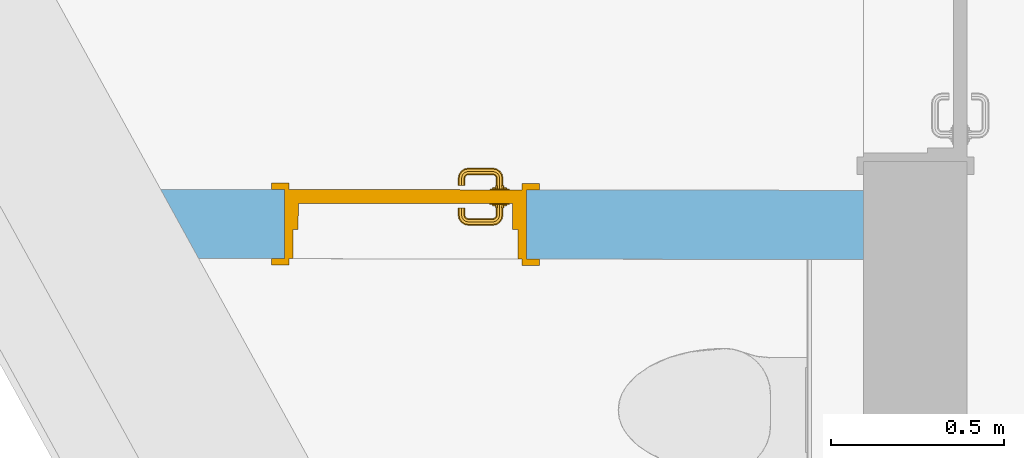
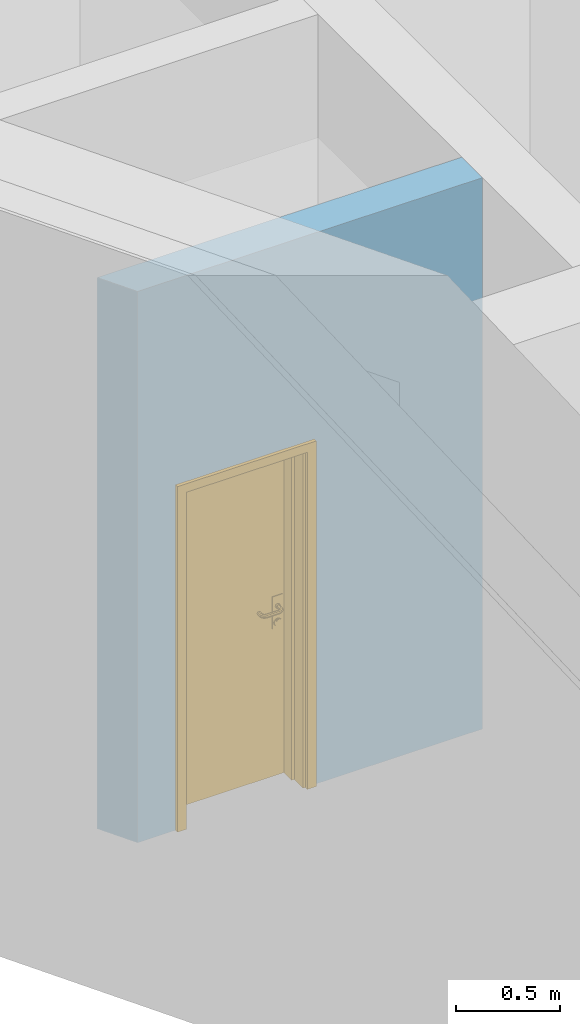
# One storey, part 46 of 194: 1 door, 1 opening, plus 1 element that does not belong to this part.
"""IFC2X3 building model written with IfcOpenShell, lengths in millimetres."""

from ifc_helpers import new_model, entity, si_unit, converted_unit, derived_unit, money_unit, direction, frame, origin_with_axes, origin_2d_with_axis, place, context, subcontext, project, spatial, polyline, rectangle, outline, extrude, open_shell, faceted_brep, surface_model, material, layer, layer_set, layer_usage, type_object, element, fill, save


model = new_model("IFC2X3")

# Units and contexts
model_context = context("Model", 3, precision=1e-05, world=origin_with_axes(), true_north=direction((0.0, 1.0)))
body_context = subcontext(model_context, "Body", "Model", "MODEL_VIEW")
ifc_project = project(units=[si_unit("LENGTHUNIT", "METRE", prefix="MILLI"), si_unit("AREAUNIT", "SQUARE_METRE"), si_unit("VOLUMEUNIT", "CUBIC_METRE"), converted_unit("PLANEANGLEUNIT", "DEGREE", entity("IfcPlaneAngleMeasure", 0.0174532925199), si_unit("PLANEANGLEUNIT", "RADIAN"), dimensions=[0, 0, 0, 0, 0, 0, 0]), si_unit("SOLIDANGLEUNIT", "STERADIAN"), money_unit("EUR"), converted_unit("TIMEUNIT", "Year", entity("IfcTimeMeasure", 31556926.0), si_unit("TIMEUNIT", "SECOND"), dimensions=[0, 0, 1, 0, 0, 0, 0]), si_unit("MASSUNIT", "GRAM", prefix="KILO"), si_unit("THERMODYNAMICTEMPERATUREUNIT", "DEGREE_CELSIUS"), si_unit("LUMINOUSINTENSITYUNIT", "LUMEN"), si_unit("ENERGYUNIT", "JOULE", prefix="MEGA"), derived_unit("THERMALCONDUCTANCEUNIT", [(si_unit("POWERUNIT", "WATT"), 1), (si_unit("LENGTHUNIT", "METRE"), -1), (si_unit("THERMODYNAMICTEMPERATUREUNIT", "KELVIN"), -1)]), derived_unit("SPECIFICHEATCAPACITYUNIT", [(si_unit("ENERGYUNIT", "JOULE"), 1), (si_unit("MASSUNIT", "GRAM", prefix="KILO"), -1), (si_unit("THERMODYNAMICTEMPERATUREUNIT", "KELVIN"), -1)]), derived_unit("MASSDENSITYUNIT", [(si_unit("MASSUNIT", "GRAM", prefix="KILO"), 1), (si_unit("VOLUMEUNIT", "CUBIC_METRE"), -1)])], contexts=[model_context])

# Site, building, storey
site_placement = place(None, origin_with_axes())
site = spatial("IfcSite", under=ifc_project, at=site_placement, Name="Site", CompositionType="ELEMENT")
building_placement = place(site_placement, origin_with_axes())
building = spatial("IfcBuilding", under=site, at=building_placement, Name="Building", CompositionType="ELEMENT")
storey_placement = place(building_placement, frame((0.0, 0.0, 3000.0), z_axis=(0.0, 0.0, 1.0), x_axis=(1.0, 0.0, 0.0)))
storey = spatial("IfcBuildingStorey", under=building, at=storey_placement, Name="2 KORRUS", CompositionType="ELEMENT", Elevation=3000.0)

# Wall, opening, door
ifc_material = material(Name="Kivi -Ol.Olev Konstruktsioon")
ifc_layer = layer(ifc_material, 200.0, ventilated="UNKNOWN")
ifc_layer_set = layer_set([ifc_layer], Name="ol.olev ss 200")
ifc_layer_usage = layer_usage(ifc_layer_set, "AXIS2", "POSITIVE", -200.0)
wall_type = type_object("IfcWallType", Name="SW - 022", PredefinedType="NOTDEFINED")
wall_placement = place(storey_placement, frame((33717.5084509, 9596.11004408, 0.0), z_axis=(0.0, 0.0, 1.0), x_axis=(-0.999998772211, 0.00156702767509, 0.0)))
wall = element("IfcWallStandardCase", 1, at=wall_placement, inside=storey, type_object=wall_type, material=ifc_layer_usage, Name="ol.olev ss 200", context=body_context, shape_type="SweptSolid", body=[
    extrude(outline(polyline([(0.313405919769, -200.0), (2032.19972244, -199.999999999), (1921.79065681, 9.09494701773e-10), (0.0, 0.0), (0.313405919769, -200.0)])), origin_with_axes(), (0.0, 0.0, 1.0), 3250.0),
])
opening_placement = place(wall_placement, frame((1324.06475725, 0.0, 0.0), z_axis=(0.0, 0.0, 1.0), x_axis=(1.0, 0.0, 0.0)))
opening = element("IfcOpeningElement", 2, at=opening_placement, cuts=wall, Name="Siseuks * Door 22", context=body_context, shape_type="SweptSolid", body=[
    extrude(rectangle(XDim=700.0, YDim=2000.0, at=origin_2d_with_axis()), frame((-1.13686837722e-10, 200.000000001, 1000.0), z_axis=(0.0, 1.0, 0.0), x_axis=(1.0, 0.0, 0.0)), (0.0, 0.0, -1.0), 600.000000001),
    extrude(rectangle(XDim=774.0, YDim=2037.0, at=origin_2d_with_axis()), frame((0.0, 0.0, 1018.5), z_axis=(0.0, 1.0, 0.0), x_axis=(1.0, 0.0, 0.0)), (0.0, 0.0, 1.0), 200.000000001),
    extrude(rectangle(XDim=774.0, YDim=2037.0, at=origin_2d_with_axis()), frame((-1.13686837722e-10, -200.000000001, 1018.5), z_axis=(0.0, -1.0, 0.0), x_axis=(1.0, 0.0, 0.0)), (0.0, 0.0, 1.0), 200.000000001),
])
door_style = type_object("IfcDoorStyle", Name="SU-C209A   700×2\xa0000", ConstructionType="NOTDEFINED", OperationType="SINGLE_SWING_LEFT", ParameterTakesPrecedence=False, Sizeable=False)
door_placement = place(opening_placement, frame((350.0, 9.09494701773e-10, 0.0), z_axis=(0.0, 0.0, 1.0), x_axis=(-1.0, 0.0, 0.0)))
door = element("IfcDoor", 3, at=door_placement, inside=storey, type_object=door_style, Name="Siseuks * Door 22", OverallHeight=2000.0, OverallWidth=700.0, context=body_context, shape_type="SurfaceModel", body=[
    faceted_brep([(700.0, 85.0000000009, 0.0), (700.0, 9.09494701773e-10, 0.0), (675.0, 9.09494701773e-10, 0.0), (675.0, 85.0, 0.0), (700.0, 85.0000000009, 2000.0), (700.0, 9.09494701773e-10, 2000.0), (675.0, 9.09494701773e-10, 1975.0), (675.0, 85.0, 1975.0)], [[[0, 1, 2, 3]], [[4, 5, 1, 0]], [[1, 5, 6, 2]], [[3, 2, 6, 7]], [[0, 3, 7, 4]], [[7, 6, 5, 4]]]),
    faceted_brep([(0.0, 85.0, 2000.0), (1.13686837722e-10, 9.09494701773e-10, 2000.0), (25.0000000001, 9.09494701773e-10, 1975.0), (25.0000000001, 85.0000000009, 1975.0), (0.0, 85.0, 0.0), (1.13686837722e-10, 9.09494701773e-10, 0.0), (25.0000000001, 9.09494701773e-10, 0.0), (25.0000000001, 85.0000000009, 0.0)], [[[0, 1, 2, 3]], [[4, 5, 1, 0]], [[1, 5, 6, 2]], [[3, 2, 6, 7]], [[0, 3, 7, 4]], [[7, 6, 5, 4]]]),
    faceted_brep([(675.0, 85.0, 1975.0), (675.0, 9.09494701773e-10, 1975.0), (25.0000000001, 9.09494701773e-10, 1975.0), (25.0000000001, 85.0000000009, 1975.0), (700.0, 85.0000000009, 2000.0), (700.0, 9.09494701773e-10, 2000.0), (1.13686837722e-10, 9.09494701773e-10, 2000.0), (0.0, 85.0, 2000.0)], [[[0, 1, 2, 3]], [[4, 5, 1, 0]], [[1, 5, 6, 2]], [[3, 2, 6, 7]], [[0, 3, 7, 4]], [[7, 6, 5, 4]]]),
    faceted_brep([(737.0, -18.9999999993, 0.0), (687.0, -18.9999999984, 0.0), (687.0, 9.09494701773e-10, 0.0), (737.0, 0.0, 0.0), (737.0, -18.9999999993, 2037.0), (687.0, -18.9999999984, 1987.0), (687.0, 9.09494701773e-10, 1987.0), (737.0, 0.0, 2037.0)], [[[0, 1, 2, 3]], [[0, 4, 5, 1]], [[1, 5, 6, 2]], [[3, 2, 6, 7]], [[4, 0, 3, 7]], [[5, 4, 7, 6]]]),
    faceted_brep([(-36.9999999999, -18.9999999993, 2037.0), (13.0000000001, -18.9999999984, 1987.0), (13.0000000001, 9.09494701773e-10, 1987.0), (-36.9999999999, 9.09494701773e-10, 2037.0), (-36.9999999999, -18.9999999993, 0.0), (13.0000000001, -18.9999999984, 0.0), (13.0000000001, 9.09494701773e-10, 0.0), (-36.9999999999, 9.09494701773e-10, 0.0)], [[[0, 1, 2, 3]], [[0, 4, 5, 1]], [[1, 5, 6, 2]], [[3, 2, 6, 7]], [[4, 0, 3, 7]], [[5, 4, 7, 6]]]),
    faceted_brep([(737.0, -18.9999999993, 2037.0), (687.0, -18.9999999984, 1987.0), (687.0, 9.09494701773e-10, 1987.0), (737.0, 0.0, 2037.0), (-36.9999999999, -18.9999999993, 2037.0), (13.0000000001, -18.9999999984, 1987.0), (13.0000000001, 9.09494701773e-10, 1987.0), (-36.9999999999, 9.09494701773e-10, 2037.0)], [[[0, 1, 2, 3]], [[0, 4, 5, 1]], [[1, 5, 6, 2]], [[3, 2, 6, 7]], [[4, 0, 3, 7]], [[5, 4, 7, 6]]]),
    faceted_brep([(737.0, 219.000000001, 0.0), (737.0, 200.000000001, 0.0), (687.0, 200.000000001, 0.0), (687.0, 219.000000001, 0.0), (737.0, 219.000000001, 2037.0), (737.0, 200.000000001, 2037.0), (687.0, 200.000000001, 1987.0), (687.0, 219.000000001, 1987.0)], [[[0, 1, 2, 3]], [[4, 5, 1, 0]], [[1, 5, 6, 2]], [[3, 2, 6, 7]], [[0, 3, 7, 4]], [[7, 6, 5, 4]]]),
    faceted_brep([(-36.9999999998, 219.0, 2037.0), (-36.9999999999, 200.000000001, 2037.0), (13.0000000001, 200.000000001, 1987.0), (13.0, 219.000000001, 1987.0), (-36.9999999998, 219.0, 0.0), (-36.9999999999, 200.000000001, 0.0), (13.0000000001, 200.000000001, 0.0), (13.0, 219.000000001, 0.0)], [[[0, 1, 2, 3]], [[4, 5, 1, 0]], [[1, 5, 6, 2]], [[3, 2, 6, 7]], [[0, 3, 7, 4]], [[7, 6, 5, 4]]]),
    faceted_brep([(737.0, 219.000000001, 2037.0), (737.0, 200.000000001, 2037.0), (687.0, 200.000000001, 1987.0), (687.0, 219.000000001, 1987.0), (-36.9999999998, 219.0, 2037.0), (-36.9999999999, 200.000000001, 2037.0), (13.0000000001, 200.000000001, 1987.0), (13.0, 219.000000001, 1987.0)], [[[0, 1, 2, 3]], [[4, 5, 1, 0]], [[1, 5, 6, 2]], [[3, 2, 6, 7]], [[0, 3, 7, 4]], [[7, 6, 5, 4]]]),
    faceted_brep([(660.0, 160.000000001, 0.0), (660.0, 85.0000000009, 0.0), (660.0, 85.0000000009, 1960.0), (660.0, 160.000000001, 1960.0), (672.0, 160.0, 0.0), (672.0, 200.000000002, 0.0), (700.0, 200.000000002, 0.0), (700.0, 85.0000000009, 0.0), (700.0, 85.0000000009, 1960.0), (672.0, 160.0, 1960.0), (700.0, 200.000000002, 1960.0), (672.0, 200.000000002, 1960.0)], [[[0, 1, 2, 3]], [[4, 5, 6, 7, 1, 0]], [[1, 7, 8, 2]], [[9, 3, 2, 8, 10, 11]], [[9, 4, 0, 3]], [[11, 5, 4, 9]], [[11, 10, 6, 5]], [[6, 10, 8, 7]]]),
    faceted_brep([(28.0000000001, 160.000000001, 1960.0), (28.0000000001, 200.000000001, 1960.0), (0.0, 200.000000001, 1960.0), (0.0, 85.0, 1960.0), (40.0000000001, 85.0000000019, 1960.0), (40.0000000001, 160.000000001, 1960.0), (28.0000000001, 160.000000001, 0.0), (28.0000000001, 200.000000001, 0.0), (0.0, 200.000000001, 0.0), (0.0, 85.0, 0.0), (40.0000000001, 85.0000000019, 0.0), (40.0000000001, 160.000000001, 0.0)], [[[0, 1, 2, 3, 4, 5]], [[0, 6, 7, 1]], [[7, 8, 2, 1]], [[2, 8, 9, 3]], [[3, 9, 10, 4]], [[5, 4, 10, 11]], [[5, 11, 6, 0]], [[6, 11, 10, 9, 8, 7]]]),
    faceted_brep([(672.0, 200.000000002, 1972.0), (28.0000000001, 200.000000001, 1972.0), (28.0000000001, 200.000000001, 1960.0), (0.0, 200.000000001, 1960.0), (0.0, 200.000000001, 2000.0), (700.0, 200.000000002, 2000.0), (700.0, 200.000000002, 1960.0), (672.0, 200.000000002, 1960.0), (672.0, 160.0, 1972.0), (28.0000000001, 160.000000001, 1972.0), (28.0000000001, 160.000000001, 1960.0), (40.0000000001, 160.000000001, 1960.0), (40.0000000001, 85.0000000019, 1960.0), (0.0, 85.0, 1960.0), (0.0, 85.0, 2000.0), (700.0, 85.0000000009, 2000.0), (700.0, 85.0000000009, 1960.0), (672.0, 160.0, 1960.0), (660.0, 85.0000000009, 1960.0), (660.0, 160.000000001, 1960.0)], [[[0, 1, 2, 3, 4, 5, 6, 7]], [[0, 8, 9, 1]], [[1, 9, 10, 2]], [[10, 11, 12, 13, 3, 2]], [[4, 3, 13, 14]], [[5, 4, 14, 15]], [[6, 5, 15, 16]], [[17, 7, 6, 16, 18, 19]], [[7, 17, 8, 0]], [[10, 9, 8, 17, 19, 11]], [[19, 18, 12, 11]], [[12, 18, 16, 15, 14, 13]]]),
    faceted_brep([(650.5, 160.000000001, 1060.0), (593.5, 160.000000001, 1060.0), (593.5, 157.0, 1060.0), (650.5, 157.000000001, 1060.0), (650.5, 160.000000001, 870.0), (593.5, 160.000000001, 870.0), (593.5, 157.0, 870.0), (650.5, 157.000000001, 870.0)], [[[0, 1, 2, 3]], [[0, 4, 5, 1]], [[1, 5, 6, 2]], [[3, 2, 6, 7]], [[4, 0, 3, 7]], [[5, 4, 7, 6]]]),
    surface_model("IfcShellBasedSurfaceModel", [(612.0, 147.000000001, 1000.0), (614.928932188, 147.000000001, 992.928932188), (614.928932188, 127.696439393, 992.928932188), (612.0, 127.984914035, 1000.0), (622.0, 147.000000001, 990.0), (622.0, 127.0, 990.0), (613.816790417, 122.105325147, 992.928932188), (611.057796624, 123.248137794, 1000.0), (614.928932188, 147.000000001, 1007.07106781), (614.928932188, 127.696439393, 1007.07106781), (629.071067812, 147.000000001, 992.928932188), (629.071067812, 126.303560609, 992.928932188), (620.47759065, 119.346331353, 990.0), (611.044179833, 117.955820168, 992.928932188), (608.932537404, 120.067462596, 1000.0), (613.816790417, 122.105325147, 1007.07106781), (622.0, 147.000000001, 1010.0), (622.0, 127.0, 1010.0), (632.0, 147.000000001, 1000.0), (632.0, 126.015085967, 1000.0), (627.138390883, 116.587337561, 992.928932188), (616.142135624, 112.857864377, 990.0), (606.894674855, 115.183209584, 992.928932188), (605.751862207, 117.942203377, 1000.0), (611.044179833, 117.955820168, 1007.07106781), (620.47759065, 119.346331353, 1010.0), (629.071067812, 147.000000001, 1007.07106781), (629.071067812, 126.303560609, 1007.07106781), (629.897384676, 115.444524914, 1000.0), (621.240091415, 107.759908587, 992.928932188), (609.653668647, 108.52240935, 990.0), (601.303560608, 114.071067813, 992.928932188), (601.015085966, 117.000000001, 1000.0), (606.894674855, 115.183209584, 1007.07106781), (616.142135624, 112.857864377, 1010.0), (627.138390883, 116.587337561, 1007.07106781), (623.351733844, 105.648266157, 1000.0), (612.41266244, 101.861609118, 992.928932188), (602.0, 107.000000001, 990.0), (532.696439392, 114.071067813, 992.928932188), (532.984914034, 117.000000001, 1000.0), (601.303560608, 114.071067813, 1007.07106781), (609.653668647, 108.52240935, 1010.0), (621.240091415, 107.759908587, 1007.07106781), (613.555475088, 99.1026153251, 1000.0), (602.696439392, 99.928932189, 992.928932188), (532.0, 107.000000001, 990.0), (527.105325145, 115.183209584, 992.928932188), (528.248137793, 117.942203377, 1000.0), (532.696439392, 114.071067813, 1007.07106781), (602.0, 107.000000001, 1010.0), (612.41266244, 101.861609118, 1007.07106781), (602.984914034, 97.0000000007, 1000.0), (531.303560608, 99.928932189, 992.928932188), (524.346331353, 108.52240935, 990.0), (522.955820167, 117.955820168, 992.928932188), (525.067462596, 120.067462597, 1000.0), (527.105325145, 115.183209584, 1007.07106781), (532.0, 107.000000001, 1010.0), (602.696439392, 99.928932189, 1007.07106781), (531.015085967, 97.0000000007, 1000.0), (521.58733756, 101.861609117, 992.928932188), (517.857864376, 112.857864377, 990.0), (520.183209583, 122.105325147, 992.928932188), (522.942203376, 123.248137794, 1000.0), (522.955820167, 117.955820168, 1007.07106781), (524.346331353, 108.52240935, 1010.0), (531.303560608, 99.928932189, 1007.07106781), (520.444524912, 99.1026153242, 1000.0), (512.759908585, 107.759908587, 992.928932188), (513.52240935, 119.346331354, 990.0), (519.071067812, 127.696439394, 992.928932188), (522.0, 127.984914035, 1000.0), (520.183209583, 122.105325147, 1007.07106781), (517.857864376, 112.857864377, 1010.0), (521.58733756, 101.861609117, 1007.07106781), (510.648266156, 105.648266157, 1000.0), (506.861609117, 116.587337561, 992.928932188), (512.0, 127.000000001, 990.0), (519.071067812, 147.0, 992.928932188), (522.0, 147.000000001, 1000.0), (519.071067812, 127.696439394, 1007.07106781), (513.52240935, 119.346331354, 1010.0), (512.759908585, 107.759908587, 1007.07106781), (504.102615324, 115.444524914, 1000.0), (504.928932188, 126.303560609, 992.928932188), (512.0, 147.000000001, 990.0), (504.928932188, 147.0, 992.928932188), (502.0, 147.0, 1000.0), (504.928932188, 147.0, 1007.07106781), (512.0, 147.000000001, 1010.0), (519.071067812, 147.0, 1007.07106781), (512.0, 127.000000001, 1010.0), (506.861609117, 116.587337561, 1007.07106781), (502.0, 126.015085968, 1000.0), (504.928932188, 126.303560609, 1007.07106781)], [open_shell([[[0, 1, 2, 3]], [[1, 4, 5, 2]], [[3, 2, 6, 7]], [[8, 0, 3, 9]], [[4, 10, 11, 5]], [[2, 5, 12, 6]], [[7, 6, 13, 14]], [[9, 3, 7, 15]], [[16, 8, 9, 17]], [[10, 18, 19, 11]], [[5, 11, 20, 12]], [[6, 12, 21, 13]], [[14, 13, 22, 23]], [[15, 7, 14, 24]], [[17, 9, 15, 25]], [[26, 16, 17, 27]], [[18, 26, 27, 19]], [[11, 19, 28, 20]], [[12, 20, 29, 21]], [[13, 21, 30, 22]], [[23, 22, 31, 32]], [[24, 14, 23, 33]], [[25, 15, 24, 34]], [[27, 17, 25, 35]], [[19, 27, 35, 28]], [[20, 28, 36, 29]], [[21, 29, 37, 30]], [[22, 30, 38, 31]], [[32, 31, 39, 40]], [[33, 23, 32, 41]], [[34, 24, 33, 42]], [[35, 25, 34, 43]], [[28, 35, 43, 36]], [[29, 36, 44, 37]], [[30, 37, 45, 38]], [[31, 38, 46, 39]], [[40, 39, 47, 48]], [[41, 32, 40, 49]], [[42, 33, 41, 50]], [[43, 34, 42, 51]], [[36, 43, 51, 44]], [[37, 44, 52, 45]], [[38, 45, 53, 46]], [[39, 46, 54, 47]], [[48, 47, 55, 56]], [[49, 40, 48, 57]], [[50, 41, 49, 58]], [[51, 42, 50, 59]], [[44, 51, 59, 52]], [[45, 52, 60, 53]], [[46, 53, 61, 54]], [[47, 54, 62, 55]], [[56, 55, 63, 64]], [[57, 48, 56, 65]], [[58, 49, 57, 66]], [[59, 50, 58, 67]], [[52, 59, 67, 60]], [[53, 60, 68, 61]], [[54, 61, 69, 62]], [[55, 62, 70, 63]], [[64, 63, 71, 72]], [[65, 56, 64, 73]], [[66, 57, 65, 74]], [[67, 58, 66, 75]], [[60, 67, 75, 68]], [[61, 68, 76, 69]], [[62, 69, 77, 70]], [[63, 70, 78, 71]], [[72, 71, 79, 80]], [[73, 64, 72, 81]], [[74, 65, 73, 82]], [[75, 66, 74, 83]], [[68, 75, 83, 76]], [[69, 76, 84, 77]], [[70, 77, 85, 78]], [[71, 78, 86, 79]], [[80, 79, 86, 87, 88, 89, 90, 91]], [[81, 72, 80, 91]], [[82, 73, 81, 92]], [[83, 74, 82, 93]], [[76, 83, 93, 84]], [[77, 84, 94, 85]], [[78, 85, 87, 86]], [[85, 94, 88, 87]], [[94, 95, 89, 88]], [[95, 92, 90, 89]], [[92, 81, 91, 90]], [[93, 82, 92, 95]], [[84, 93, 95, 94]]])]),
    faceted_brep([(611.607695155, 147.0, 994.0), (610.0, 147.000000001, 1000.0), (609.0, 157.0, 1000.0), (610.741669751, 157.000000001, 993.5), (616.0, 147.0, 989.607695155), (622.0, 147.000000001, 988.0), (628.0, 147.000000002, 989.607695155), (632.392304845, 147.000000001, 994.0), (634.0, 147.000000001, 1000.0), (632.392304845, 147.000000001, 1006.0), (628.0, 147.000000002, 1010.39230485), (622.0, 147.000000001, 1012.0), (616.0, 147.0, 1010.39230485), (611.607695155, 147.0, 1006.0), (610.741669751, 157.000000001, 1006.5), (615.5, 157.000000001, 1011.25833025), (622.0, 157.000000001, 1013.0), (628.5, 157.000000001, 1011.25833025), (633.258330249, 157.000000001, 1006.5), (635.0, 157.000000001, 1000.0), (633.258330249, 157.000000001, 993.5), (628.5, 157.000000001, 988.741669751), (622.0, 157.000000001, 987.0), (615.5, 157.000000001, 988.741669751)], [[[0, 1, 2, 3]], [[1, 0, 4, 5, 6, 7, 8, 9, 10, 11, 12, 13]], [[1, 13, 14, 2]], [[2, 14, 15, 16, 17, 18, 19, 20, 21, 22, 23, 3]], [[4, 0, 3, 23]], [[5, 4, 23, 22]], [[6, 5, 22, 21]], [[7, 6, 21, 20]], [[8, 7, 20, 19]], [[9, 8, 19, 18]], [[10, 9, 18, 17]], [[11, 10, 17, 16]], [[12, 11, 16, 15]], [[13, 12, 15, 14]]]),
    faceted_brep([(604.679491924, 153.000000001, 895.0), (602.0, 153.0, 905.0), (600.0, 157.000000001, 905.0), (602.947441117, 157.0, 894.0), (612.0, 153.000000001, 887.679491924), (622.0, 153.0, 885.0), (632.0, 153.000000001, 887.679491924), (639.320508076, 153.0, 895.0), (642.0, 153.000000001, 905.0), (639.320508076, 153.0, 915.0), (632.0, 153.000000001, 922.320508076), (622.0, 153.0, 925.0), (612.0, 153.000000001, 922.320508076), (604.679491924, 153.000000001, 915.0), (602.947441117, 157.0, 916.0), (611.0, 157.000000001, 924.052558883), (622.0, 157.000000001, 927.0), (633.0, 157.000000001, 924.052558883), (641.052558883, 157.000000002, 916.0), (644.0, 157.000000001, 905.0), (641.052558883, 157.000000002, 894.0), (633.0, 157.000000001, 885.947441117), (622.0, 157.000000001, 883.0), (611.0, 157.000000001, 885.947441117)], [[[0, 1, 2, 3]], [[1, 0, 4, 5, 6, 7, 8, 9, 10, 11, 12, 13]], [[1, 13, 14, 2]], [[2, 14, 15, 16, 17, 18, 19, 20, 21, 22, 23, 3]], [[4, 0, 3, 23]], [[5, 4, 23, 22]], [[6, 5, 22, 21]], [[7, 6, 21, 20]], [[8, 7, 20, 19]], [[9, 8, 19, 18]], [[10, 9, 18, 17]], [[11, 10, 17, 16]], [[12, 11, 16, 15]], [[13, 12, 15, 14]]]),
    faceted_brep([(617.050252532, 151.000000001, 909.050252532), (615.0, 151.000000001, 914.0), (614.0, 153.0, 914.0), (616.343145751, 153.0, 908.343145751), (622.0, 151.000000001, 907.0), (626.949747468, 151.000000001, 909.050252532), (629.0, 151.000000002, 914.0), (626.949747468, 151.000000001, 918.949747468), (622.0, 151.000000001, 921.0), (617.050252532, 151.000000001, 918.949747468), (616.343145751, 153.0, 919.656854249), (622.0, 153.0, 922.0), (627.656854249, 153.000000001, 919.656854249), (630.0, 153.0, 914.0), (627.656854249, 153.000000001, 908.343145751), (622.0, 153.0, 906.0)], [[[0, 1, 2, 3]], [[1, 0, 4, 5, 6, 7, 8, 9]], [[1, 9, 10, 2]], [[2, 10, 11, 12, 13, 14, 15, 3]], [[4, 0, 3, 15]], [[5, 4, 15, 14]], [[6, 5, 14, 13]], [[7, 6, 13, 12]], [[8, 7, 12, 11]], [[9, 8, 11, 10]]]),
    faceted_brep([(650.5, 200.000000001, 1060.0), (650.5, 203.0, 1060.0), (593.5, 203.0, 1060.0), (593.5, 200.000000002, 1060.0), (650.5, 200.000000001, 870.0), (650.5, 203.0, 870.0), (593.5, 203.0, 870.0), (593.5, 200.000000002, 870.0)], [[[0, 1, 2, 3]], [[4, 5, 1, 0]], [[1, 5, 6, 2]], [[3, 2, 6, 7]], [[0, 3, 7, 4]], [[7, 6, 5, 4]]]),
    surface_model("IfcShellBasedSurfaceModel", [(612.0, 213.000000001, 1000.0), (612.0, 232.015085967, 1000.0), (614.928932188, 232.303560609, 992.928932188), (614.928932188, 213.000000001, 992.928932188), (614.928932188, 213.000000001, 1007.07106781), (614.928932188, 232.303560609, 1007.07106781), (611.057796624, 236.751862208, 1000.0), (613.816790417, 237.894674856, 992.928932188), (622.0, 233.000000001, 990.0), (622.0, 213.000000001, 990.0), (622.0, 213.000000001, 1010.0), (622.0, 233.000000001, 1010.0), (613.816790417, 237.894674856, 1007.07106781), (608.932537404, 239.932537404, 1000.0), (611.044179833, 242.044179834, 992.928932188), (620.47759065, 240.653668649, 990.0), (629.071067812, 233.696439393, 992.928932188), (629.071067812, 213.000000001, 992.928932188), (629.071067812, 213.000000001, 1007.07106781), (629.071067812, 233.696439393, 1007.07106781), (620.47759065, 240.653668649, 1010.0), (611.044179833, 242.044179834, 1007.07106781), (605.751862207, 242.057796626, 1000.0), (606.894674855, 244.816790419, 992.928932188), (616.142135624, 247.142135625, 990.0), (627.138390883, 243.412662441, 992.928932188), (632.0, 233.984914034, 1000.0), (632.0, 213.000000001, 1000.0), (627.138390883, 243.412662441, 1007.07106781), (616.142135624, 247.142135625, 1010.0), (606.894674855, 244.816790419, 1007.07106781), (601.015085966, 243.000000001, 1000.0), (601.303560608, 245.92893219, 992.928932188), (609.653668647, 251.477590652, 990.0), (621.240091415, 252.240091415, 992.928932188), (629.897384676, 244.555475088, 1000.0), (621.240091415, 252.240091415, 1007.07106781), (609.653668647, 251.477590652, 1010.0), (601.303560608, 245.92893219, 1007.07106781), (532.984914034, 243.000000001, 1000.0), (532.696439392, 245.928932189, 992.928932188), (602.0, 253.000000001, 990.0), (612.41266244, 258.138390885, 992.928932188), (623.351733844, 254.351733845, 1000.0), (612.41266244, 258.138390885, 1007.07106781), (602.0, 253.000000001, 1010.0), (532.696439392, 245.928932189, 1007.07106781), (528.248137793, 242.057796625, 1000.0), (527.105325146, 244.816790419, 992.928932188), (532.0, 253.000000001, 990.0), (602.696439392, 260.071067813, 992.928932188), (613.555475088, 260.897384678, 1000.0), (602.696439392, 260.071067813, 1007.07106781), (532.0, 253.000000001, 1010.0), (527.105325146, 244.816790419, 1007.07106781), (525.067462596, 239.932537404, 1000.0), (522.955820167, 242.044179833, 992.928932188), (524.346331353, 251.477590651, 990.0), (531.303560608, 260.071067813, 992.928932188), (602.984914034, 263.000000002, 1000.0), (531.303560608, 260.071067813, 1007.07106781), (524.346331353, 251.477590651, 1010.0), (522.955820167, 242.044179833, 1007.07106781), (522.942203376, 236.751862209, 1000.0), (520.183209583, 237.894674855, 992.928932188), (517.857864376, 247.142135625, 990.0), (521.58733756, 258.138390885, 992.928932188), (531.015085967, 263.000000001, 1000.0), (521.58733756, 258.138390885, 1007.07106781), (517.857864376, 247.142135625, 1010.0), (520.183209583, 237.894674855, 1007.07106781), (522.0, 232.015085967, 1000.0), (519.071067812, 232.303560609, 992.928932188), (513.52240935, 240.653668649, 990.0), (512.759908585, 252.240091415, 992.928932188), (520.444524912, 260.897384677, 1000.0), (512.759908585, 252.240091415, 1007.07106781), (513.52240935, 240.653668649, 1010.0), (519.071067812, 232.303560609, 1007.07106781), (522.0, 213.000000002, 1000.0), (519.071067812, 213.000000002, 992.928932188), (512.0, 233.0, 990.0), (506.861609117, 243.412662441, 992.928932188), (510.648266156, 254.351733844, 1000.0), (506.861609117, 243.412662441, 1007.07106781), (512.0, 233.0, 1010.0), (519.071067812, 213.000000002, 1007.07106781), (512.0, 213.000000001, 1010.0), (504.928932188, 213.000000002, 1007.07106781), (502.0, 213.000000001, 1000.0), (504.928932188, 213.000000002, 992.928932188), (512.0, 213.000000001, 990.0), (504.928932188, 233.696439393, 992.928932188), (504.102615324, 244.555475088, 1000.0), (504.928932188, 233.696439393, 1007.07106781), (502.0, 233.984914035, 1000.0)], [open_shell([[[0, 1, 2, 3]], [[4, 5, 1, 0]], [[1, 6, 7, 2]], [[3, 2, 8, 9]], [[10, 11, 5, 4]], [[5, 12, 6, 1]], [[6, 13, 14, 7]], [[2, 7, 15, 8]], [[9, 8, 16, 17]], [[18, 19, 11, 10]], [[11, 20, 12, 5]], [[12, 21, 13, 6]], [[13, 22, 23, 14]], [[7, 14, 24, 15]], [[8, 15, 25, 16]], [[17, 16, 26, 27]], [[27, 26, 19, 18]], [[19, 28, 20, 11]], [[20, 29, 21, 12]], [[21, 30, 22, 13]], [[22, 31, 32, 23]], [[14, 23, 33, 24]], [[15, 24, 34, 25]], [[16, 25, 35, 26]], [[26, 35, 28, 19]], [[28, 36, 29, 20]], [[29, 37, 30, 21]], [[30, 38, 31, 22]], [[31, 39, 40, 32]], [[23, 32, 41, 33]], [[24, 33, 42, 34]], [[25, 34, 43, 35]], [[35, 43, 36, 28]], [[36, 44, 37, 29]], [[37, 45, 38, 30]], [[38, 46, 39, 31]], [[39, 47, 48, 40]], [[32, 40, 49, 41]], [[33, 41, 50, 42]], [[34, 42, 51, 43]], [[43, 51, 44, 36]], [[44, 52, 45, 37]], [[45, 53, 46, 38]], [[46, 54, 47, 39]], [[47, 55, 56, 48]], [[40, 48, 57, 49]], [[41, 49, 58, 50]], [[42, 50, 59, 51]], [[51, 59, 52, 44]], [[52, 60, 53, 45]], [[53, 61, 54, 46]], [[54, 62, 55, 47]], [[55, 63, 64, 56]], [[48, 56, 65, 57]], [[49, 57, 66, 58]], [[50, 58, 67, 59]], [[59, 67, 60, 52]], [[60, 68, 61, 53]], [[61, 69, 62, 54]], [[62, 70, 63, 55]], [[63, 71, 72, 64]], [[56, 64, 73, 65]], [[57, 65, 74, 66]], [[58, 66, 75, 67]], [[67, 75, 68, 60]], [[68, 76, 69, 61]], [[69, 77, 70, 62]], [[70, 78, 71, 63]], [[71, 79, 80, 72]], [[64, 72, 81, 73]], [[65, 73, 82, 74]], [[66, 74, 83, 75]], [[75, 83, 76, 68]], [[76, 84, 77, 69]], [[77, 85, 78, 70]], [[78, 86, 79, 71]], [[79, 86, 87, 88, 89, 90, 91, 80]], [[72, 80, 91, 81]], [[73, 81, 92, 82]], [[74, 82, 93, 83]], [[83, 93, 84, 76]], [[84, 94, 85, 77]], [[85, 87, 86, 78]], [[94, 88, 87, 85]], [[95, 89, 88, 94]], [[92, 90, 89, 95]], [[81, 91, 90, 92]], [[82, 92, 95, 93]], [[93, 95, 94, 84]]])]),
    faceted_brep([(611.607695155, 213.000000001, 994.0), (610.741669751, 203.0, 993.5), (609.0, 203.000000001, 1000.0), (610.0, 213.000000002, 1000.0), (616.0, 213.000000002, 989.607695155), (615.5, 203.0, 988.741669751), (622.0, 203.000000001, 987.0), (628.5, 203.000000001, 988.741669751), (633.258330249, 203.000000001, 993.5), (635.0, 203.000000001, 1000.0), (633.258330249, 203.000000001, 1006.5), (628.5, 203.000000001, 1011.25833025), (622.0, 203.000000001, 1013.0), (615.5, 203.0, 1011.25833025), (610.741669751, 203.0, 1006.5), (611.607695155, 213.000000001, 1006.0), (616.0, 213.000000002, 1010.39230485), (622.0, 213.000000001, 1012.0), (628.0, 213.000000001, 1010.39230485), (632.392304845, 213.000000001, 1006.0), (634.0, 213.000000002, 1000.0), (632.392304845, 213.000000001, 994.0), (628.0, 213.000000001, 989.607695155), (622.0, 213.000000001, 988.0)], [[[0, 1, 2, 3]], [[4, 5, 1, 0]], [[2, 1, 5, 6, 7, 8, 9, 10, 11, 12, 13, 14]], [[3, 2, 14, 15]], [[3, 15, 16, 17, 18, 19, 20, 21, 22, 23, 4, 0]], [[23, 6, 5, 4]], [[22, 7, 6, 23]], [[21, 8, 7, 22]], [[20, 9, 8, 21]], [[19, 10, 9, 20]], [[18, 11, 10, 19]], [[17, 12, 11, 18]], [[16, 13, 12, 17]], [[15, 14, 13, 16]]]),
    faceted_brep([(604.679491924, 207.0, 895.0), (602.947441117, 203.000000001, 894.0), (600.0, 203.0, 905.0), (602.0, 207.000000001, 905.0), (612.0, 207.0, 887.679491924), (611.0, 203.0, 885.947441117), (622.0, 203.000000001, 883.0), (633.0, 203.0, 885.947441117), (641.052558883, 203.000000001, 894.0), (644.0, 203.000000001, 905.0), (641.052558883, 203.000000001, 916.0), (633.0, 203.0, 924.052558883), (622.0, 203.000000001, 927.0), (611.0, 203.0, 924.052558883), (602.947441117, 203.000000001, 916.0), (604.679491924, 207.0, 915.0), (612.0, 207.0, 922.320508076), (622.0, 207.000000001, 925.0), (632.0, 207.0, 922.320508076), (639.320508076, 207.000000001, 915.0), (642.0, 207.0, 905.0), (639.320508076, 207.000000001, 895.0), (632.0, 207.0, 887.679491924), (622.0, 207.000000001, 885.0)], [[[0, 1, 2, 3]], [[4, 5, 1, 0]], [[2, 1, 5, 6, 7, 8, 9, 10, 11, 12, 13, 14]], [[3, 2, 14, 15]], [[3, 15, 16, 17, 18, 19, 20, 21, 22, 23, 4, 0]], [[23, 6, 5, 4]], [[22, 7, 6, 23]], [[21, 8, 7, 22]], [[20, 9, 8, 21]], [[19, 10, 9, 20]], [[18, 11, 10, 19]], [[17, 12, 11, 18]], [[16, 13, 12, 17]], [[15, 14, 13, 16]]]),
    faceted_brep([(617.050252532, 209.000000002, 909.050252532), (616.343145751, 207.000000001, 908.343145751), (614.0, 207.0, 914.0), (615.0, 209.000000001, 914.0), (622.0, 209.000000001, 907.0), (622.0, 207.000000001, 906.0), (627.65685425, 207.0, 908.343145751), (630.0, 207.000000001, 914.0), (627.65685425, 207.0, 919.656854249), (622.0, 207.000000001, 922.0), (616.343145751, 207.000000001, 919.656854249), (617.050252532, 209.000000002, 918.949747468), (622.0, 209.000000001, 921.0), (626.949747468, 209.000000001, 918.949747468), (629.0, 209.000000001, 914.0), (626.949747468, 209.000000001, 909.050252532)], [[[0, 1, 2, 3]], [[4, 5, 1, 0]], [[2, 1, 5, 6, 7, 8, 9, 10]], [[3, 2, 10, 11]], [[3, 11, 12, 13, 14, 15, 4, 0]], [[15, 6, 5, 4]], [[14, 7, 6, 15]], [[13, 8, 7, 14]], [[12, 9, 8, 13]], [[11, 10, 9, 12]]]),
    faceted_brep([(28.0000000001, 200.000000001, 0.0), (672.0, 200.000000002, 0.0), (672.0, 160.0, 0.0), (28.0000000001, 160.000000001, 0.0), (28.0000000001, 200.000000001, 1972.0), (672.0, 200.000000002, 1972.0), (672.0, 160.0, 1972.0), (28.0000000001, 160.000000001, 1972.0)], [[[0, 1, 2, 3]], [[0, 4, 5, 1]], [[1, 5, 6, 2]], [[3, 2, 6, 7]], [[4, 0, 3, 7]], [[5, 4, 7, 6]]]),
])
fill(opening, door)

save(model, "model.ifc")
